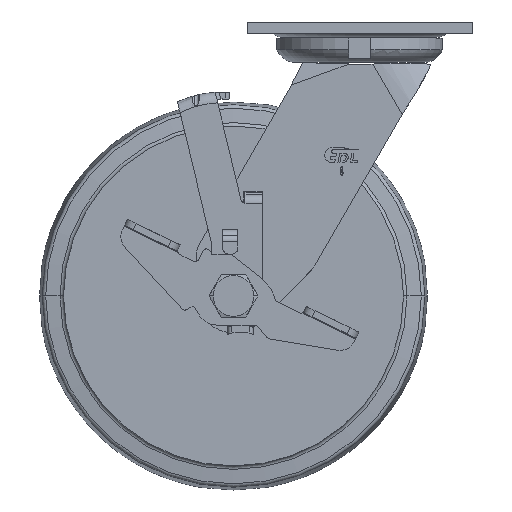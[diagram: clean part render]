
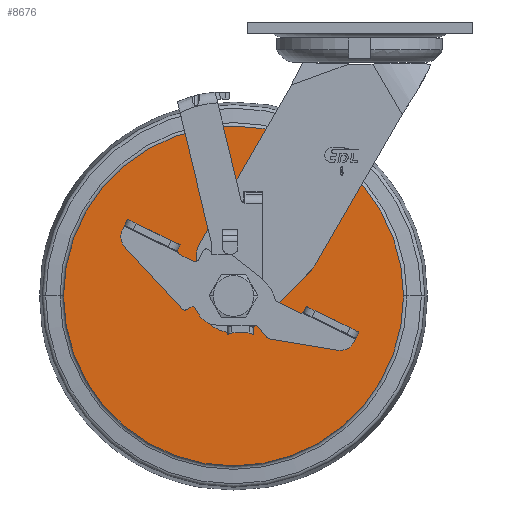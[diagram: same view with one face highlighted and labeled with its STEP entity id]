
A CAD part, top view. The second image highlights one B-rep face of the part: STEP entity #8676.
In plain terms, the highlighted planar face has unit normal (0, 0, 1) as drawn and (-1, 0, 0) by its records, which use the part's own axes.
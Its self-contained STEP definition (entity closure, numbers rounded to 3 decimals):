
#8321=CARTESIAN_POINT('',(-25.,0.,0.));
#8322=DIRECTION('',(-1.,0.,0.));
#8323=DIRECTION('',(0.,1.,0.));
#8324=AXIS2_PLACEMENT_3D('',#8321,#8322,#8323);
#8326=CARTESIAN_POINT('',(-25.,0.,0.));
#8327=DIRECTION('',(1.,0.,0.));
#8328=DIRECTION('',(0.,1.,0.));
#8329=AXIS2_PLACEMENT_3D('',#8326,#8327,#8328);
#8331=CARTESIAN_POINT('',(-25.,0.,0.));
#8332=DIRECTION('',(1.,0.,0.));
#8333=DIRECTION('',(0.,1.,0.));
#8334=AXIS2_PLACEMENT_3D('',#8331,#8332,#8333);
#8344=CARTESIAN_POINT('',(-25.,0.,0.));
#8345=DIRECTION('',(-1.,0.,0.));
#8346=DIRECTION('',(0.,1.,0.));
#8347=AXIS2_PLACEMENT_3D('',#8344,#8345,#8346);
#8595=CARTESIAN_POINT('',(-25.,12.,0.));
#8597=VERTEX_POINT('',#8595);
#8625=CARTESIAN_POINT('',(-25.,87.5,0.));
#8626=VERTEX_POINT('',#8625);
#8627=CARTESIAN_POINT('',(-25.,-12.,0.));
#8629=VERTEX_POINT('',#8627);
#8657=CARTESIAN_POINT('',(-25.,-87.5,0.));
#8658=VERTEX_POINT('',#8657);
#8659=CARTESIAN_POINT('',(-25.,0.,0.));
#8660=DIRECTION('',(1.,0.,0.));
#8661=DIRECTION('',(0.,-1.,0.));
#8662=AXIS2_PLACEMENT_3D('',#8659,#8660,#8661);
#8663=PLANE('',#8662);
#8665=ORIENTED_EDGE('',*,*,#8664,.F.);
#8667=ORIENTED_EDGE('',*,*,#8666,.T.);
#8668=EDGE_LOOP('',(#8665,#8667));
#8669=FACE_OUTER_BOUND('',#8668,.F.);
#8671=ORIENTED_EDGE('',*,*,#8670,.F.);
#8673=ORIENTED_EDGE('',*,*,#8672,.T.);
#8674=EDGE_LOOP('',(#8671,#8673));
#8675=FACE_BOUND('',#8674,.F.);
#8325=CIRCLE('',#8324,87.5);
#8330=CIRCLE('',#8329,87.5);
#8335=CIRCLE('',#8334,12.);
#8348=CIRCLE('',#8347,12.);
#8664=EDGE_CURVE('',#8626,#8658,#8325,.T.);
#8666=EDGE_CURVE('',#8626,#8658,#8330,.T.);
#8670=EDGE_CURVE('',#8597,#8629,#8335,.T.);
#8672=EDGE_CURVE('',#8597,#8629,#8348,.T.);
#8676=ADVANCED_FACE('',(#8669,#8675),#8663,.F.);
